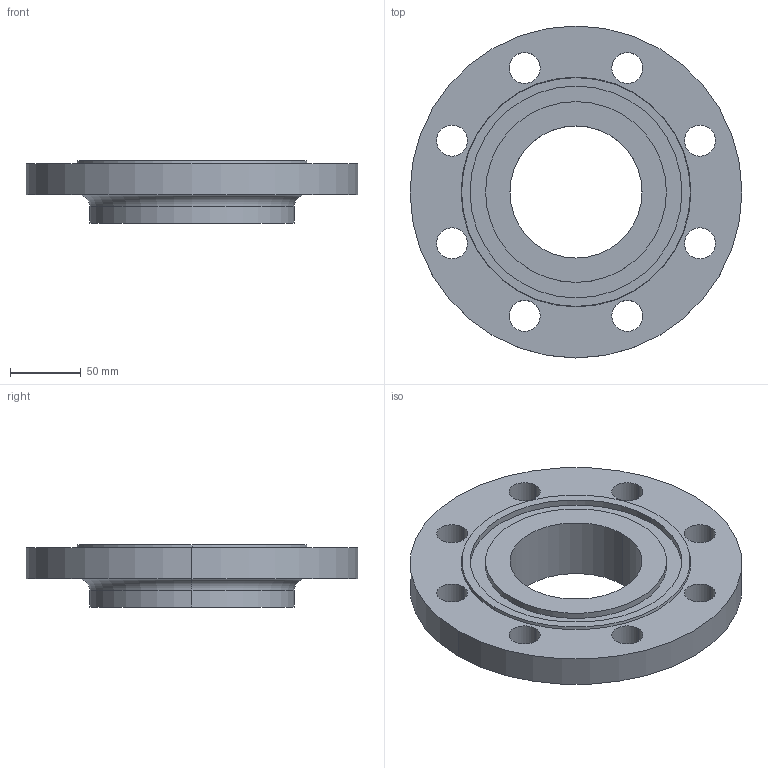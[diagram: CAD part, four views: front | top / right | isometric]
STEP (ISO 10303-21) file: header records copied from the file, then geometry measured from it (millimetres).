
FILE_DESCRIPTION (( 'STEP AP214' ), '1' );
FILE_NAME ('PN40 DN100 Type 13 - Type D Face.STEP', '2019-01-02T00:18:47', ( '' ), ( '' ), 'SwSTEP 2.0', 'SolidWorks 2019', '' );
FILE_SCHEMA (( 'AUTOMOTIVE_DESIGN' ));
Length unit declared in the file: millimetre
Products named in the file (1): PN40 DN100 Type 13 - Type D Face
Bounding box: 235 x 235 x 44 mm (x, y, z)
Volume: 941632 mm3; surface area: 120623.9 mm2
Topology: 1 solids, 1 shells, 36 faces, 88 edges, 58 vertices
Faces by surface type: cylinder 26, plane 6, torus 2, cone 2
Entity records: 1166 total; most frequent: DIRECTION 222, CARTESIAN_POINT 183, ORIENTED_EDGE 176, AXIS2_PLACEMENT_3D 97, EDGE_CURVE 88, CIRCLE 60, VERTEX_POINT 58, EDGE_LOOP 58
